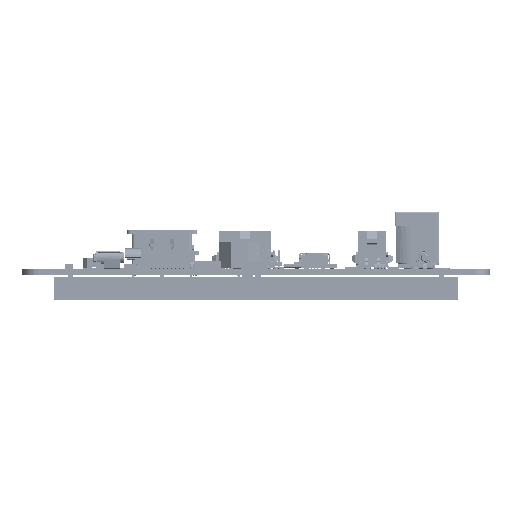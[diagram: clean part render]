
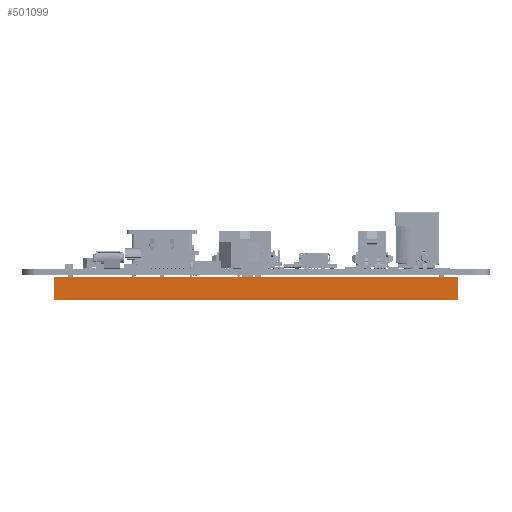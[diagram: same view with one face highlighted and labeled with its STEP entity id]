
A CAD part, left-side view. The second image highlights one B-rep face of the part: STEP entity #501099.
In plain terms, the highlighted planar face has unit normal (-1, 0, 0) as drawn and (1, 0, 0) by its records, which use the part's own axes.
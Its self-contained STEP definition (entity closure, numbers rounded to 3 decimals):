
#22624 = CARTESIAN_POINT ( 'NONE',  ( 82.45, -50., 0. ) ) ;
#68186 = VECTOR ( 'NONE', #365417, 1000. ) ;
#91989 = ORIENTED_EDGE ( 'NONE', *, *, #633262, .T. ) ;
#145232 = VERTEX_POINT ( 'NONE', #469905 ) ;
#150769 = VERTEX_POINT ( 'NONE', #22624 ) ;
#156091 = DIRECTION ( 'NONE',  ( 0., 0., -1. ) ) ;
#178912 = EDGE_CURVE ( 'NONE', #559407, #624244, #197219, .T. ) ;
#179148 = DIRECTION ( 'NONE',  ( 0., 1., 0. ) ) ;
#197219 = LINE ( 'NONE', #316167, #68186 ) ;
#204471 = EDGE_LOOP ( 'NONE', ( #597624, #493123, #556377, #91989 ) ) ;
#230452 = VECTOR ( 'NONE', #156091, 1000. ) ;
#253208 = LINE ( 'NONE', #546873, #582251 ) ;
#306178 = DIRECTION ( 'NONE',  ( -1., 0., 0. ) ) ;
#309948 = CARTESIAN_POINT ( 'NONE',  ( 82.45, -50., 5.65 ) ) ;
#316167 = CARTESIAN_POINT ( 'NONE',  ( 82.45, 50., 5.65 ) ) ;
#347406 = EDGE_CURVE ( 'NONE', #150769, #145232, #253208, .T. ) ;
#351114 = PLANE ( 'NONE',  #466459 ) ;
#355470 = CARTESIAN_POINT ( 'NONE',  ( 82.45, 50., 5.65 ) ) ;
#365417 = DIRECTION ( 'NONE',  ( 0., 1., 0. ) ) ;
#384197 = LINE ( 'NONE', #541348, #641073 ) ;
#442719 = DIRECTION ( 'NONE',  ( 0., 0., -1. ) ) ;
#454372 = DIRECTION ( 'NONE',  ( 0., -1., 0. ) ) ;
#466459 = AXIS2_PLACEMENT_3D ( 'NONE', #355470, #306178, #454372 ) ;
#469905 = CARTESIAN_POINT ( 'NONE',  ( 82.45, 50., 0. ) ) ;
#471334 = LINE ( 'NONE', #517140, #230452 ) ;
#493123 = ORIENTED_EDGE ( 'NONE', *, *, #576629, .F. ) ;
#501099 = ADVANCED_FACE ( 'NONE', ( #609340 ), #351114, .F. ) ;
#517140 = CARTESIAN_POINT ( 'NONE',  ( 82.45, -50., 5.65 ) ) ;
#541348 = CARTESIAN_POINT ( 'NONE',  ( 82.45, 50., 5.65 ) ) ;
#546873 = CARTESIAN_POINT ( 'NONE',  ( 82.45, 50., 0. ) ) ;
#556377 = ORIENTED_EDGE ( 'NONE', *, *, #178912, .F. ) ;
#559407 = VERTEX_POINT ( 'NONE', #309948 ) ;
#576629 = EDGE_CURVE ( 'NONE', #624244, #145232, #384197, .T. ) ;
#582251 = VECTOR ( 'NONE', #179148, 1000. ) ;
#597624 = ORIENTED_EDGE ( 'NONE', *, *, #347406, .T. ) ;
#609340 = FACE_OUTER_BOUND ( 'NONE', #204471, .T. ) ;
#624244 = VERTEX_POINT ( 'NONE', #15340 ) ;
#633262 = EDGE_CURVE ( 'NONE', #559407, #150769, #471334, .T. ) ;
#641073 = VECTOR ( 'NONE', #442719, 1000. ) ;
#15340 = CARTESIAN_POINT ( 'NONE',  ( 82.45, 50., 5.65 ) ) ;
